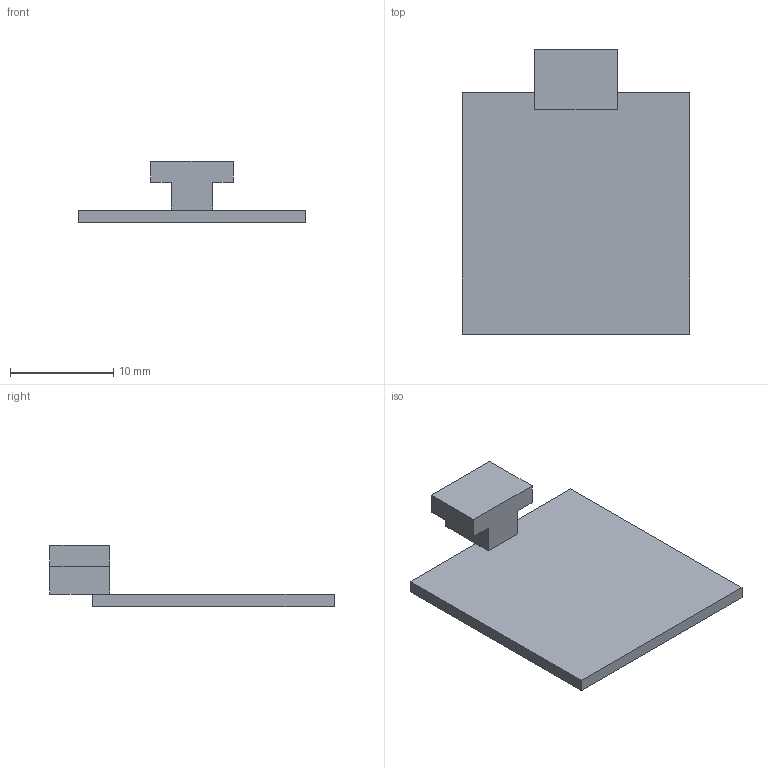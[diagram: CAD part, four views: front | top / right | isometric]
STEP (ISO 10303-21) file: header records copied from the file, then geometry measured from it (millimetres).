
FILE_DESCRIPTION(('Open CASCADE Model'),'2;1');
FILE_NAME('Open CASCADE Shape Model','2026-10-02T07:52:38',('Author'),( 'Open CASCADE'),'Open CASCADE STEP processor 7.8','Open CASCADE 7.8' ,'Unknown');
FILE_SCHEMA(('AUTOMOTIVE_DESIGN { 1 0 10303 214 1 1 1 1 }'));
Length unit declared in the file: millimetre
Products named in the file (1): Open CASCADE STEP translator 7.8 3
Bounding box: 22 x 27.5 x 5.9 mm (x, y, z)
Volume: 773.2 mm3; surface area: 1325.9 mm2
Topology: 1 solids, 1 shells, 16 faces, 40 edges, 26 vertices
Faces by surface type: plane 16
Entity records: 994 total; most frequent: CARTESIAN_POINT 167, DIRECTION 150, LINE 116, VECTOR 116, ORIENTED_EDGE 80, PCURVE 80, DEFINITIONAL_REPRESENTATION 80, EDGE_CURVE 40
